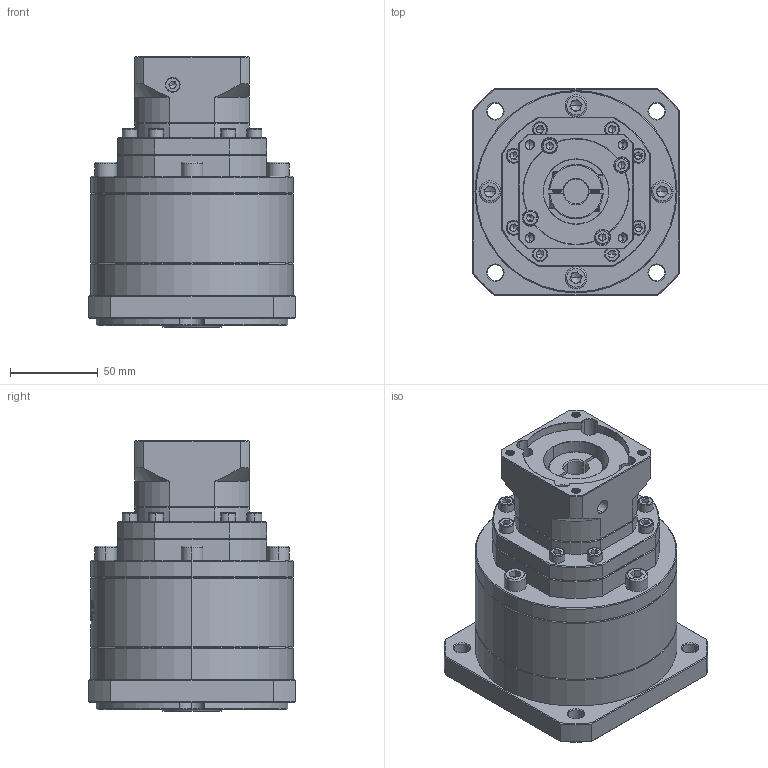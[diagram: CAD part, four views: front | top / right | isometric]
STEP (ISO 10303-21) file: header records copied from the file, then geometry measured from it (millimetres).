
FILE_DESCRIPTION (( 'STEP AP214' ), '1' );
FILE_NAME ('ZF120A-K25-L3-P2-14-60-75-M6.step', '2023-08-27T06:33:05', ( '' ), ( '' ), 'SwSTEP 2.0', 'SolidWorks 2016', '' );
FILE_SCHEMA (( 'AUTOMOTIVE_DESIGN' ));
Length unit declared in the file: millimetre
Products named in the file (1): ZF120A-K25-L3-P2-14-60-75-M6
Bounding box: 118 x 118 x 154 mm (x, y, z)
Volume: 1161191.5 mm3; surface area: 114901.9 mm2
Topology: 7 solids, 7 shells, 2306 faces, 6153 edges, 3953 vertices
Faces by surface type: plane 1172, bspline 426, cylinder 389, cone 297, torus 22
Entity records: 120188 total; most frequent: CARTESIAN_POINT 42466, ORIENTED_EDGE 12202, DIRECTION 9103, EDGE_CURVE 6101, VERTEX_POINT 3953, LINE 3293, VECTOR 3293, AXIS2_PLACEMENT_3D 2905
